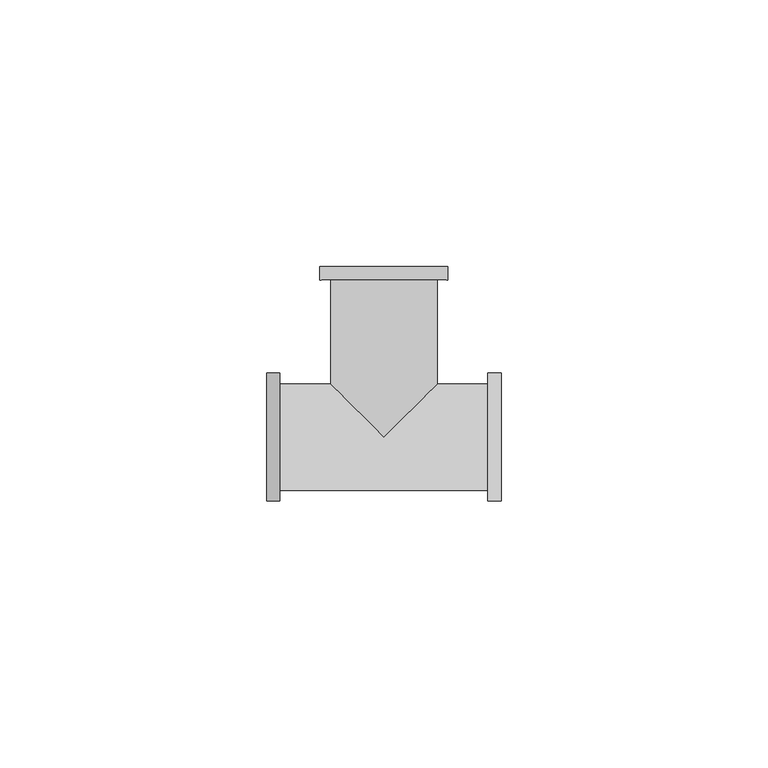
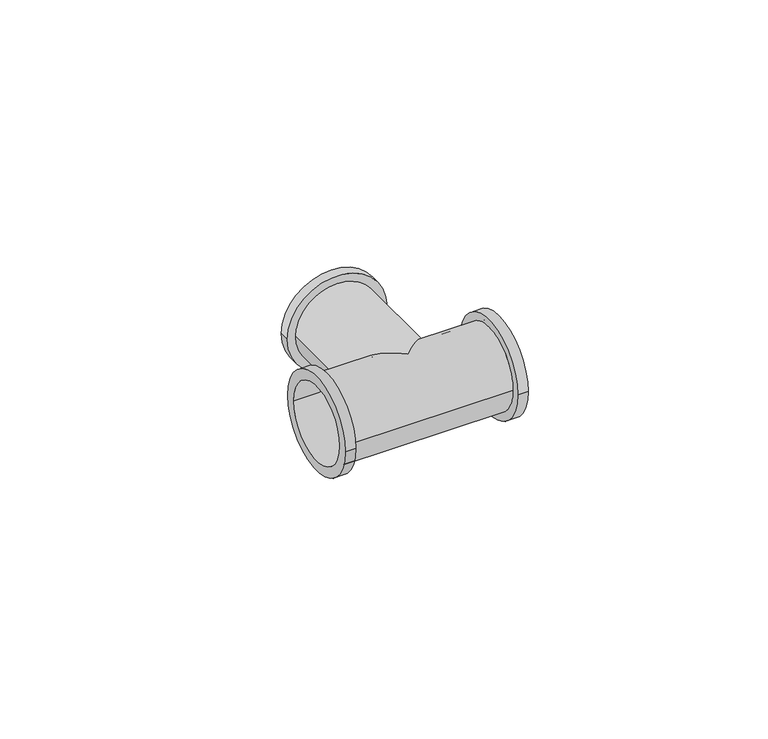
"""IFC4 building model written with IfcOpenShell, lengths in millimetres: pipe fitting geometry, БИР ПЕКС_КМП_Тройник_НР : Тройник с наружной резьбой_КМП."""

import ifcopenshell
import ifcopenshell.guid

model = None  # the IFC model being written
_history = None  # IfcOwnerHistory: only IFC2X3 demands one
_inside = {}  # id of a spatial element -> (the spatial element, [elements in it])
_under = {}  # id of a project, library or spatial element -> (it, [spatial elements below it])
_declared = {}  # id of a project -> (the project, [libraries it declares])
_typed = {}  # id of a type object -> (the type object, [elements of that type])
_made_of = {}  # id of a material, layer set ... -> (it, [elements and type objects made of it])


def new_model(schema):
    """Start an empty IFC model of exactly this schema.

    Asked for "IFC4X3", IfcOpenShell would pick the latest addendum, in which some entities
    have other attributes; the version numbers below select the first issue.
    IFC2X3 requires an IfcOwnerHistory on every rooted entity: one is made here for all.
    """
    global model, _history
    if schema == "IFC4X3":
        model = ifcopenshell.file(schema_version=(4, 3, 0, 0))
    else:
        model = ifcopenshell.file(schema=schema)
    _inside.clear()
    _under.clear()
    _declared.clear()
    _typed.clear()
    _made_of.clear()
    _history = None
    if model.schema == "IFC2X3":
        org = make("IfcOrganization", Name="unknown")
        user = make(
            "IfcPersonAndOrganization",
            ThePerson=make("IfcPerson", FamilyName="unknown"),
            TheOrganization=org,
        )
        app = make(
            "IfcApplication",
            ApplicationDeveloper=org,
            Version="unknown",
            ApplicationFullName="unknown",
            ApplicationIdentifier="unknown",
        )
        _history = make(
            "IfcOwnerHistory",
            OwningUser=user,
            OwningApplication=app,
            ChangeAction="ADDED",
            CreationDate=0,
        )
    return model


def make(cls, **values):
    """One entity of the class cls with the attributes given. An attribute that is None is left unset."""
    return model.create_entity(
        cls, **{name: value for name, value in values.items() if value is not None}
    )


def rooted(cls, **values):
    """An entity with a GlobalId (a new one), such as an element, a storey or a relation."""
    return make(cls, GlobalId=ifcopenshell.guid.new(), OwnerHistory=_history, **values)


def si_unit(unit_type, name, prefix=None):
    """IfcSIUnit, for example si_unit("LENGTHUNIT", "METRE", prefix="MILLI")."""
    return make("IfcSIUnit", UnitType=unit_type, Prefix=prefix, Name=name)


def assignment(units):
    """IfcUnitAssignment: the units of a project."""
    return None if units is None else make("IfcUnitAssignment", Units=units)


def point(xyz):
    """IfcCartesianPoint."""
    return None if xyz is None else make("IfcCartesianPoint", Coordinates=xyz)


def direction(xyz):
    """IfcDirection."""
    return None if xyz is None else make("IfcDirection", DirectionRatios=xyz)


def frame(location, z_axis=None, x_axis=None):
    """IfcAxis2Placement3D, a coordinate frame: its origin and axes. An axis left out is left unset."""
    return make(
        "IfcAxis2Placement3D",
        Location=point(location),
        Axis=direction(z_axis),
        RefDirection=direction(x_axis),
    )


def origin():
    """The frame at (0, 0, 0) with its axes left unset."""
    return frame((0.0, 0.0, 0.0))


def place(relative_to, where):
    """IfcLocalPlacement: puts the frame where relative to a parent placement (None: the world)."""
    return make(
        "IfcLocalPlacement", PlacementRelTo=relative_to, RelativePlacement=where
    )


def context(
    kind, dimensions, precision=None, world=None, true_north=None, identifier=None
):
    """IfcGeometricRepresentationContext, for example the 3D "Model" context."""
    return make(
        "IfcGeometricRepresentationContext",
        ContextIdentifier=identifier,
        ContextType=kind,
        CoordinateSpaceDimension=dimensions,
        Precision=precision,
        WorldCoordinateSystem=world,
        TrueNorth=true_north,
    )


def project(units=None, contexts=None):
    """IfcProject with its units and contexts."""
    return rooted(
        "IfcProject",
        Name="project",
        RepresentationContexts=contexts,
        UnitsInContext=assignment(units),
    )


def spatial(cls, under=None, at=None, **own):
    """A site, building, storey or space (cls), placed at a placement, below another one or the project."""
    s = rooted(cls, ObjectPlacement=at, **own)
    if under is not None:
        _under.setdefault(under.id(), (under, []))[1].append(s)
    return s


def polyline(points):
    """IfcPolyline through the points."""
    return make("IfcPolyline", Points=[point(p) for p in points])


def circle_curve(where, radius):
    """IfcCircle in the frame where."""
    return make("IfcCircle", Position=where, Radius=radius)


def ellipse_curve(where, semi_axis1, semi_axis2):
    """IfcEllipse in the frame where."""
    return make(
        "IfcEllipse", Position=where, SemiAxis1=semi_axis1, SemiAxis2=semi_axis2
    )


def shape(context_of_items, identifier, shape_type, items):
    """IfcShapeRepresentation: the items that make up one representation, for example the "Body"."""
    return make(
        "IfcShapeRepresentation",
        ContextOfItems=context_of_items,
        RepresentationIdentifier=identifier,
        RepresentationType=shape_type,
        Items=items,
    )


def source(mapping_origin, context_of_items, identifier, shape_type, items):
    """IfcRepresentationMap: a shape defined once, which mapped items show again and again."""
    return make(
        "IfcRepresentationMap",
        MappingOrigin=mapping_origin,
        MappedRepresentation=shape(context_of_items, identifier, shape_type, items),
    )


def transform(
    local_origin,
    x_axis=None,
    y_axis=None,
    z_axis=None,
    scale=None,
    scale2=None,
    scale3=None,
    uniform=True,
):
    """IfcCartesianTransformationOperator3D, or its non-uniform kind. x_axis, y_axis, z_axis: its Axis1, 2, 3."""
    if uniform:
        return make(
            "IfcCartesianTransformationOperator3D",
            Axis1=direction(x_axis),
            Axis2=direction(y_axis),
            LocalOrigin=point(local_origin),
            Scale=scale,
            Axis3=direction(z_axis),
        )
    return make(
        "IfcCartesianTransformationOperator3DnonUniform",
        Axis1=direction(x_axis),
        Axis2=direction(y_axis),
        LocalOrigin=point(local_origin),
        Scale=scale,
        Axis3=direction(z_axis),
        Scale2=scale2,
        Scale3=scale3,
    )


def mapped(mapping_source, mapping_target):
    """IfcMappedItem: shows the shape of a source again, moved by a transform."""
    return make(
        "IfcMappedItem", MappingSource=mapping_source, MappingTarget=mapping_target
    )


def made_of(thing, what):
    """Note that an element or type object is made of a material, layer set ...; save() writes the relation."""
    if what is not None:
        _made_of.setdefault(what.id(), (what, []))[1].append(thing)
    return thing


def element(
    cls,
    number,
    at=None,
    inside=None,
    cuts=None,
    type_object=None,
    material=None,
    context=None,
    identifier="Body",
    shape_type=None,
    held_by="IfcProductDefinitionShape",
    body=None,
    shapes=None,
    **own,
):
    """One element of the class cls, such as IfcWall. Its Tag is "e" and its number.

    at: its placement. inside: the storey or other place that contains it. cuts: it is an
    opening in that element (IfcRelVoidsElement). A single representation is given by context,
    identifier, shape_type and body (its items); several are given by shapes. held_by: the class
    of the entity that holds the representations. save() writes the other relations.
    """
    e = rooted(cls, Tag="e%d" % number, ObjectPlacement=at, **own)
    if body is not None:
        shapes = [shape(context, identifier, shape_type, body)]
    if shapes is not None:
        e.Representation = make(held_by, Representations=shapes)
    if inside is not None:
        _inside.setdefault(inside.id(), (inside, []))[1].append(e)
    if cuts is not None:
        rooted(
            "IfcRelVoidsElement", RelatingBuildingElement=cuts, RelatedOpeningElement=e
        )
    if type_object is not None:
        _typed.setdefault(type_object.id(), (type_object, []))[1].append(e)
    return made_of(e, material)


def aggregate(whole, parts):
    """IfcRelAggregates: a whole, such as a stair, and the parts it consists of."""
    return rooted("IfcRelAggregates", RelatingObject=whole, RelatedObjects=parts)


def save(model, path):
    """Write the relations noted so far, then the file.

    IfcRelAggregates (storeys below a building ...), IfcRelContainedInSpatialStructure (elements
    in a storey), IfcRelDefinesByType, IfcRelAssociatesMaterial and IfcRelDeclares: one each for
    every whole, place, type object, material and project.
    """
    for whole, parts in _under.values():
        aggregate(whole, parts)
    for where, things in _inside.values():
        rooted(
            "IfcRelContainedInSpatialStructure",
            RelatedElements=things,
            RelatingStructure=where,
        )
    for kind, things in _typed.values():
        rooted("IfcRelDefinesByType", RelatedObjects=things, RelatingType=kind)
    for what, things in _made_of.values():
        rooted("IfcRelAssociatesMaterial", RelatedObjects=things, RelatingMaterial=what)
    for by, libraries in _declared.values():
        rooted("IfcRelDeclares", RelatingContext=by, RelatedDefinitions=libraries)
    model.write(path)


def plane_surface(at):
    """IfcPlane: the flat surface through the origin of the frame at, square to its z axis."""
    return make("IfcPlane", Position=at)


def cylinder_surface(at, radius):
    """IfcCylindricalSurface: all points at the distance radius from the z axis of the frame at."""
    return make("IfcCylindricalSurface", Position=at, Radius=radius)


def revolved_surface(curve, axis_point, axis_direction):
    """IfcSurfaceOfRevolution: the curve turned about the line through axis_point along axis_direction."""
    return make(
        "IfcSurfaceOfRevolution",
        SweptCurve=make("IfcArbitraryOpenProfileDef", ProfileType="CURVE", Curve=curve),
        AxisPosition=make("IfcAxis1Placement", Location=point(axis_point), Axis=direction(axis_direction)),
    )


def advanced_brep(points, edges, surfaces, faces):
    """IfcAdvancedBrep: a solid bounded by faces that lie on surfaces and meet in shared edges.

    An edge is (start, end): straight between two places in points (the first is 0);
    or (start, end, curve); or (start, end, curve, False) where it runs against its curve.
    A face is (place in surfaces, loops), or (place, loops, False) where it looks against
    its surface's normal. A loop lists edges by number (the first is 1), with a minus sign
    where the edge is run from its end to its start. The first loop is the outer one.
    """
    corners = [point(p) for p in points]
    vertices = [make("IfcVertexPoint", VertexGeometry=c) for c in corners]
    made = []
    for start, end, *more in edges:
        made.append(
            make(
                "IfcEdgeCurve",
                EdgeStart=vertices[start],
                EdgeEnd=vertices[end],
                EdgeGeometry=more[0] if more else make("IfcPolyline", Points=[corners[start], corners[end]]),
                SameSense=more[1] if len(more) > 1 else True,
            )
        )
    hull = []
    for where, loops, *sense in faces:
        bounds = []
        for j, loop in enumerate(loops):
            ring = [make("IfcOrientedEdge", EdgeElement=made[abs(k) - 1], Orientation=k > 0) for k in loop]
            bounds.append(
                make(
                    "IfcFaceOuterBound" if j == 0 else "IfcFaceBound",
                    Bound=make("IfcEdgeLoop", EdgeList=ring),
                    Orientation=True,
                )
            )
        hull.append(make("IfcAdvancedFace", Bounds=bounds, FaceSurface=surfaces[where], SameSense=sense[0] if sense else True))
    return make("IfcAdvancedBrep", Outer=make("IfcClosedShell", CfsFaces=hull))


def pipe_fitting_65bbaa9c(model_context):
    return source(origin(), model_context, "Body", "AdvancedBrep", [
        advanced_brep(
        [(-12.0, 32.0, 0.0), (12.0, 32.0, 0.0), (-9.5, 32.0, 0.0), (9.5, 32.0, 0.0), (10.0, 10.0, 0.0), (0.0, 0.0, -10.0), (-10.0, 10.0, 0.0), (-10.0, 29.5, 0.0), (10.0, 29.5, 0.0), (0.0, 0.0, 10.0), (22.0, -12.0, 0.0), (22.0, 12.0, 0.0), (22.0, 9.5, 0.0), (22.0, -9.5, 0.0), (-22.0, -12.0, 0.0), (-22.0, 12.0, 0.0), (-22.0, -9.5, 0.0), (-22.0, 9.5, 0.0), (19.5, 10.0, 0.0), (19.5, -10.0, 0.0), (-19.5, -10.0, 0.0), (-19.5, 10.0, 0.0), (-12.0, 29.5, 0.0), (12.0, 29.5, 0.0), (-19.5, -12.0, 0.0), (-19.5, 12.0, 0.0), (19.5, -12.0, 0.0), (19.5, 12.0, 0.0), (-9.5, 9.5, 0.0), (0.0, 0.0, -9.5), (9.5, 9.5, 0.0), (0.0, 0.0, 9.5)],
        [
            (0, 1, circle_curve(frame((0.0, 32.0, 0.0), z_axis=(0.0, 1.0, 0.0), x_axis=(1.0, 0.0, 0.0)), 12.0)),
            (1, 0, circle_curve(frame((0.0, 32.0, 0.0), z_axis=(0.0, 1.0, 0.0), x_axis=(1.0, 0.0, 0.0)), 12.0)),
            (2, 3, circle_curve(frame((0.0, 32.0, 0.0), z_axis=(0.0, -1.0, 0.0), x_axis=(1.0, 0.0, 0.0)), 9.5)),
            (3, 2, circle_curve(frame((0.0, 32.0, 0.0), z_axis=(0.0, -1.0, 0.0), x_axis=(1.0, 0.0, 0.0)), 9.5)),
            (4, 5, ellipse_curve(frame((0.0, 0.0, 0.0), z_axis=(-0.7071067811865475, 0.7071067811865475, 0.0), x_axis=(-0.7071067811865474, -0.7071067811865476, 0.0)), 14.1421356, 10.0)),
            (5, 6, ellipse_curve(frame((0.0, 0.0, 0.0), z_axis=(0.7071067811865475, 0.7071067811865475, 0.0), x_axis=(0.7071067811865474, -0.7071067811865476, 0.0)), 14.1421356, 10.0)),
            (6, 7),
            (7, 8, circle_curve(frame((0.0, 29.5, 0.0), z_axis=(0.0, -1.0, 0.0), x_axis=(1.0, 0.0, 0.0)), 10.0)),
            (8, 4),
            (9, 4, ellipse_curve(frame((0.0, 0.0, 0.0), z_axis=(-0.7071067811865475, 0.7071067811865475, 0.0), x_axis=(-0.7071067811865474, -0.7071067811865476, 0.0)), 14.1421356, 10.0)),
            (8, 7, circle_curve(frame((0.0, 29.5, 0.0), z_axis=(0.0, -1.0, 0.0), x_axis=(1.0, 0.0, 0.0)), 10.0)),
            (6, 9, ellipse_curve(frame((0.0, 0.0, 0.0), z_axis=(0.7071067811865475, 0.7071067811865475, 0.0), x_axis=(0.7071067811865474, -0.7071067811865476, 0.0)), 14.1421356, 10.0)),
            (10, 11, circle_curve(frame((22.0, 0.0, 0.0), z_axis=(1.0, 0.0, 0.0), x_axis=(0.0, 1.0, 0.0)), 12.0)),
            (11, 10, circle_curve(frame((22.0, 0.0, 0.0), z_axis=(1.0, 0.0, 0.0), x_axis=(0.0, 1.0, 0.0)), 12.0)),
            (12, 13, circle_curve(frame((22.0, 0.0, 0.0), z_axis=(-1.0, 0.0, 0.0), x_axis=(0.0, 1.0, 0.0)), 9.5)),
            (13, 12, circle_curve(frame((22.0, 0.0, 0.0), z_axis=(-1.0, 0.0, 0.0), x_axis=(0.0, 1.0, 0.0)), 9.5)),
            (14, 15, circle_curve(frame((-22.0, 0.0, 0.0), z_axis=(-1.0, 0.0, 0.0), x_axis=(0.0, 1.0, 0.0)), 12.0)),
            (15, 14, circle_curve(frame((-22.0, 0.0, 0.0), z_axis=(-1.0, 0.0, 0.0), x_axis=(0.0, 1.0, 0.0)), 12.0)),
            (16, 17, circle_curve(frame((-22.0, 0.0, 0.0), z_axis=(1.0, 0.0, 0.0), x_axis=(0.0, 1.0, 0.0)), 9.5)),
            (17, 16, circle_curve(frame((-22.0, 0.0, 0.0), z_axis=(1.0, 0.0, 0.0), x_axis=(0.0, 1.0, 0.0)), 9.5)),
            (4, 18),
            (18, 19, circle_curve(frame((19.5, 0.0, 0.0), z_axis=(-1.0, 0.0, 0.0), x_axis=(0.0, 1.0, 0.0)), 10.0)),
            (19, 20),
            (20, 21, circle_curve(frame((-19.5, 0.0, 0.0), z_axis=(1.0, 0.0, 0.0), x_axis=(0.0, 1.0, 0.0)), 10.0)),
            (21, 6),
            (21, 20, circle_curve(frame((-19.5, 0.0, 0.0), z_axis=(1.0, 0.0, 0.0), x_axis=(0.0, 1.0, 0.0)), 10.0)),
            (19, 18, circle_curve(frame((19.5, 0.0, 0.0), z_axis=(-1.0, 0.0, 0.0), x_axis=(0.0, 1.0, 0.0)), 10.0)),
            (22, 23, circle_curve(frame((0.0, 29.5, 0.0), z_axis=(0.0, -1.0, 0.0), x_axis=(1.0, 0.0, 0.0)), 12.0)),
            (23, 22, circle_curve(frame((0.0, 29.5, 0.0), z_axis=(0.0, -1.0, 0.0), x_axis=(1.0, 0.0, 0.0)), 12.0)),
            (22, 0),
            (1, 23),
            (24, 25, circle_curve(frame((-19.5, 0.0, 0.0), z_axis=(1.0, 0.0, 0.0), x_axis=(0.0, 1.0, 0.0)), 12.0)),
            (25, 24, circle_curve(frame((-19.5, 0.0, 0.0), z_axis=(1.0, 0.0, 0.0), x_axis=(0.0, 1.0, 0.0)), 12.0)),
            (15, 25),
            (24, 14),
            (26, 27, circle_curve(frame((19.5, 0.0, 0.0), z_axis=(-1.0, 0.0, 0.0), x_axis=(0.0, 1.0, 0.0)), 12.0)),
            (27, 26, circle_curve(frame((19.5, 0.0, 0.0), z_axis=(-1.0, 0.0, 0.0), x_axis=(0.0, 1.0, 0.0)), 12.0)),
            (10, 26),
            (27, 11),
            (2, 28),
            (28, 29, ellipse_curve(frame((0.0, 0.0, 0.0), z_axis=(-0.7071067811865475, -0.7071067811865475, 0.0), x_axis=(0.7071067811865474, -0.7071067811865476, 0.0)), 13.4350288, 9.5)),
            (29, 30, ellipse_curve(frame((0.0, 0.0, 0.0), z_axis=(0.7071067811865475, -0.7071067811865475, 0.0), x_axis=(-0.7071067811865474, -0.7071067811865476, 0.0)), 13.4350288, 9.5)),
            (30, 3),
            (30, 31, ellipse_curve(frame((0.0, 0.0, 0.0), z_axis=(0.7071067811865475, -0.7071067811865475, 0.0), x_axis=(-0.7071067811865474, -0.7071067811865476, 0.0)), 13.4350288, 9.5)),
            (31, 28, ellipse_curve(frame((0.0, 0.0, 0.0), z_axis=(-0.7071067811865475, -0.7071067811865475, 0.0), x_axis=(0.7071067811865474, -0.7071067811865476, 0.0)), 13.4350288, 9.5)),
            (16, 13),
            (12, 30),
            (28, 17),
        ],
        [
            plane_surface(frame((10.0, 32.0, 0.0), z_axis=(0.0, 1.0, 0.0), x_axis=(0.0, 0.0, -1.0))),
            cylinder_surface(frame((0.0, 32.0, 0.0), z_axis=(0.0, -1.0, 0.0), x_axis=(1.0, 0.0, 0.0)), 10.0),
            plane_surface(frame((22.0, 10.0, 0.0), z_axis=(1.0, 0.0, 0.0), x_axis=(0.0, 0.0, 1.0))),
            plane_surface(frame((-22.0, 10.0, 0.0), z_axis=(-1.0, 0.0, 0.0), x_axis=(0.0, 0.0, -1.0))),
            cylinder_surface(frame((-22.0, 0.0, 0.0), z_axis=(1.0, 0.0, 0.0), x_axis=(0.0, 1.0, 0.0)), 10.0),
            plane_surface(frame((12.0, 29.5, 0.0), z_axis=(0.0, -1.0, 0.0), x_axis=(0.0, 0.0, 1.0))),
            cylinder_surface(frame((0.0, 32.0, 0.0), z_axis=(0.0, -1.0, 0.0), x_axis=(1.0, 0.0, 0.0)), 12.0),
            plane_surface(frame((-19.5, 12.0, 0.0), z_axis=(1.0, 0.0, 0.0), x_axis=(0.0, 0.0, 1.0))),
            cylinder_surface(frame((-19.5, 0.0, 0.0), z_axis=(-1.0, 0.0, 0.0), x_axis=(0.0, 1.0, 0.0)), 12.0),
            plane_surface(frame((19.5, 12.0, 0.0), z_axis=(-1.0, 0.0, 0.0), x_axis=(0.0, 0.0, -1.0))),
            cylinder_surface(frame((19.5, 0.0, 0.0), z_axis=(1.0, 0.0, 0.0), x_axis=(0.0, 1.0, 0.0)), 12.0),
            revolved_surface(polyline([(9.5, -9.499999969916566, 0.0), (9.5, 32.0, 0.0)]), (0.0, 32.0, 0.0), (0.0, -1.0, 0.0)),
            revolved_surface(polyline([(22.0, 9.5, 0.0), (-22.0, 9.5, 0.0)]), (-22.0, 0.0, 0.0), (1.0, 0.0, 0.0)),
        ],
        [
            (0, [[1, 2], [3, 4]]),
            (1, [[5, 6, 7, 8, 9]]),
            (1, [[10, -9, 11, -7, 12]]),
            (2, [[13, 14], [15, 16]]),
            (3, [[17, 18], [19, 20]]),
            (4, [[-5, 21, 22, 23, 24, 25, -6]]),
            (4, [[-10, -12, -25, 26, -23, 27, -21]]),
            (5, [[28, 29], [-8, -11]]),
            (6, [[-28, 30, -2, 31]]),
            (6, [[-29, -31, -1, -30]]),
            (7, [[32, 33], [-24, -26]]),
            (8, [[-18, 34, -32, 35]]),
            (8, [[-17, -35, -33, -34]]),
            (9, [[36, 37], [-22, -27]]),
            (10, [[-13, 38, -37, 39]]),
            (10, [[-14, -39, -36, -38]]),
            (11, [[-3, 40, 41, 42, 43]]),
            (11, [[-4, -43, 44, 45, -40]]),
            (12, [[46, -15, 47, -42, -41, 48, -19]]),
            (12, [[-46, -20, -48, -45, -44, -47, -16]]),
        ],
    ),
    ])


if __name__ == "__main__":
    model = new_model("IFC4")
    model_context = context("Model", 3, world=origin())
    ifc_project = project(units=[si_unit("LENGTHUNIT", "METRE", prefix="MILLI")], contexts=[model_context])
    site = spatial("IfcSite", under=ifc_project)
    building = spatial("IfcBuilding", under=site)
    placement = place(None, origin())
    pipe_fitting_shape = pipe_fitting_65bbaa9c(model_context)
    element("IfcPipeFitting", 1, ObjectType="БИР ПЕКС_КМП_Тройник_НР : Тройник с наружной резьбой_КМП", at=placement, inside=building, context=model_context, shape_type="MappedRepresentation", body=[
        mapped(pipe_fitting_shape, transform((0.0, 0.0, 0.0), x_axis=(1.0, 0.0, 0.0), y_axis=(0.0, 1.0, 0.0), z_axis=(0.0, 0.0, 1.0))),
    ])
    save(model, "model.ifc")
